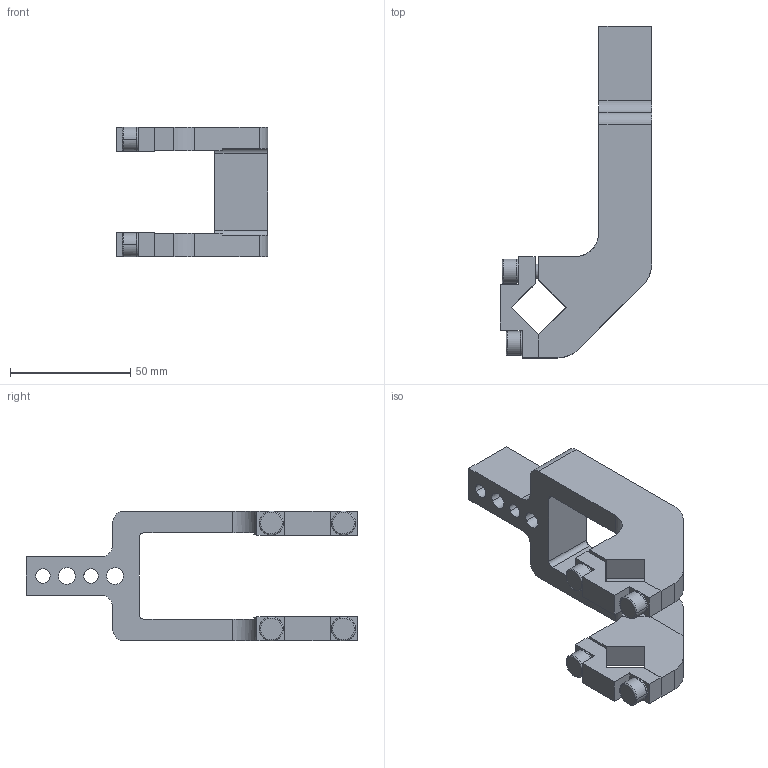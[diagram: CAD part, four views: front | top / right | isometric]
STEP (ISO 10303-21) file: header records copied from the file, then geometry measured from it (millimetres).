
FILE_DESCRIPTION(('CATIA V5 STEP Exchange'),'2;1');
FILE_NAME('E:\clampact\CLAMPACT\clampact\catalog\Clampact Arm\Arm 3D\Clampact Arm\arm_K40_25_A80_Clampact.stp','2022-12-06T07:46:54+00:00',('none'),('none'),'CATIA Version 5 Release 19 SP 6 (IN-10)','CATIA V5 STEP AP203','none');
FILE_SCHEMA(('CONFIG_CONTROL_DESIGN'));
Length unit declared in the file: millimetre
Products named in the file (1): K40_25_A80_Clampact_柯莱普
Bounding box: 63 x 138 x 54 mm (x, y, z)
Volume: 75284 mm3; surface area: 26484.3 mm2
Topology: 1 solids, 5 shells, 166 faces, 424 edges, 268 vertices
Faces by surface type: plane 82, cylinder 52, cone 20, torus 12
Entity records: 4774 total; most frequent: CARTESIAN_POINT 961, ORIENTED_EDGE 832, DIRECTION 643, EDGE_CURVE 416, AXIS2_PLACEMENT_3D 268, VERTEX_POINT 268, VECTOR 253, LINE 253
